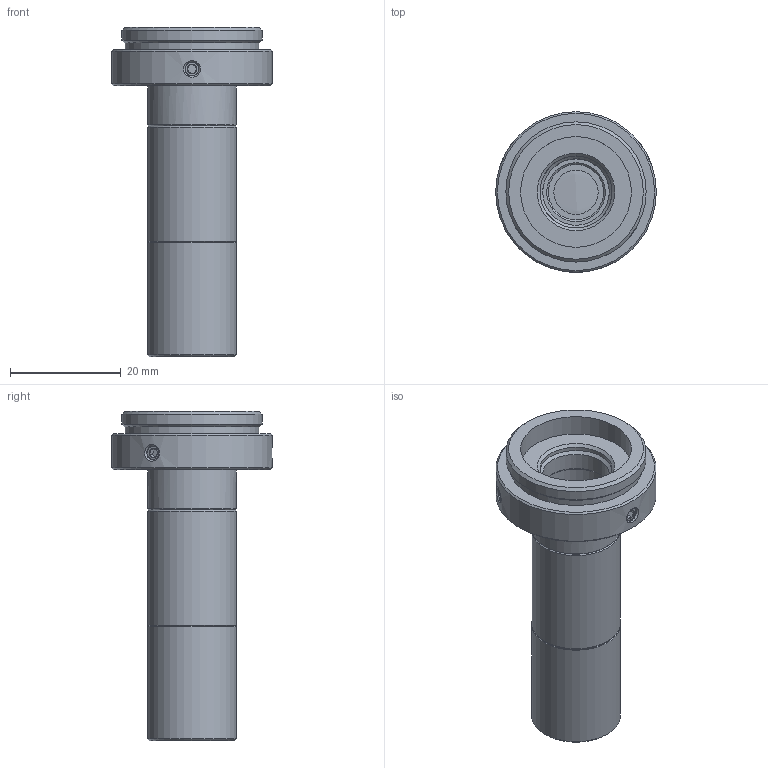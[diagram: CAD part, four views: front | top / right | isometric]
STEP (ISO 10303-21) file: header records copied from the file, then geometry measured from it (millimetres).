
FILE_DESCRIPTION(('STEP AP214'),'1');
FILE_NAME('RTK-1.5-65.stp','2026-03-16T03:27:52',(' '),(' '),'Spatial InterOp 3D',' ',' ');
FILE_SCHEMA(('AUTOMOTIVE_DESIGN { 1 0 10303 214 1 1 1 1 }'));
Length unit declared in the file: metre
Products named in the file (2): RTK-1.5-65; Component1
Assembly tree (1 placements, depth 2):
  RTK-1.5-65
    Component1
Bounding box: 29 x 29 x 59.44 mm (x, y, z)
Volume: 8543.7 mm3; surface area: 7497.3 mm2
Topology: 1 solids, 1 shells, 120 faces, 272 edges, 178 vertices
Faces by surface type: cone 46, plane 42, cylinder 27, bspline 3, sphere 2
Full cylindrical faces by diameter (mm): 2.5 x3, 8 x1, 10 x2, 12 x3, 13 x2, 13.4 x2, 13.5 x2, 13.7 x1, 13.9 x1, 14.2 x2, 14.7 x1, 16 x3, 20 x1, 24.12 x1, 25.32 x1, 29 x1
Entity records: 4250 total; most frequent: CARTESIAN_POINT 884, DIRECTION 494, ORIENTED_EDGE 388, AXIS2_PLACEMENT_3D 211, EDGE_LOOP 202, EDGE_CURVE 194, VERTEX_POINT 158, FACE_OUTER_BOUND 150
